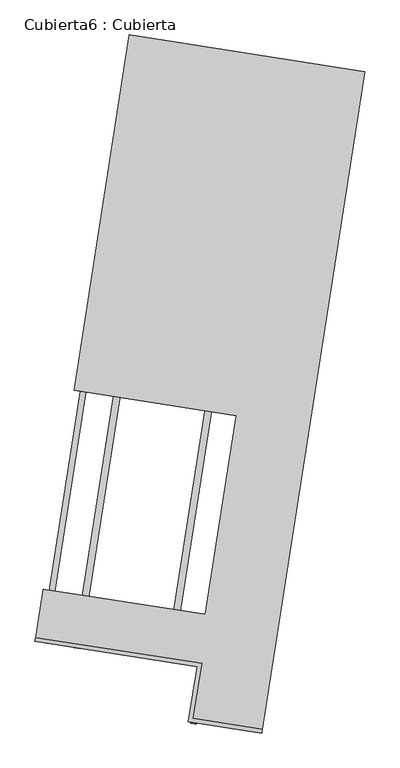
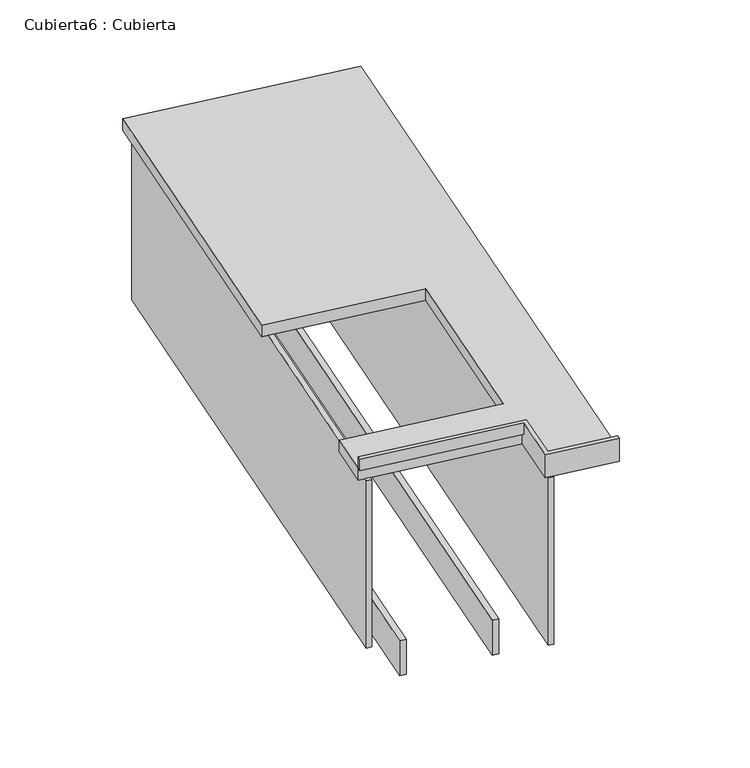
"""IFC4 building model written with IfcOpenShell, lengths in millimetres: furniture geometry, Cubierta6 : Cubierta."""

from ifc_helpers import new_model, si_unit, frame, origin, place, context, project, spatial, polyline, outline, extrude, faceted_brep, source, transform, mapped, element, save


def cubierta6_cubierta_f862e356(model_context):
    return source(origin(), model_context, "Body", "SolidModel", [
        extrude(outline(polyline([(-41443.253885, -58226.1470663), (-41777.4553404, -60370.2575747), (-41802.1570731, -60366.4073277), (-41471.8058647, -58246.9985521), (-41792.9283859, -58196.9453419), (-42123.2795943, -60316.3541195), (-42147.981327, -60312.5038726), (-41813.7798716, -58168.3933622), (-41443.253885, -58226.1470663)])), frame((0.0, 0.0, 3200.0), z_axis=(0.0, 0.0, 1.0), x_axis=(1.0, 0.0, 0.0)), (0.0, 0.0, 1.0), 150.0),
        extrude(outline(polyline([(-41918.0373001, -58025.6334638), (-41300.4939866, -58121.8896378), (-41687.0587823, -60601.9435906), (-41706.8201684, -60598.863393), (-41323.3355704, -58138.5708263), (-41901.3561116, -58048.4750476), (-42251.7286044, -60296.3328359), (-42271.4899906, -60293.2526383), (-41918.0373001, -58025.6334638)])), frame((0.0, 0.0, 3350.0), z_axis=(0.0, 0.0, 1.0), x_axis=(1.0, 0.0, 0.0)), (0.0, 0.0, 1.0), 720.0),
        faceted_brep([(-41049.6264128, -58135.6903749, 4120.0), (-41938.8887859, -57997.0814843, 4120.0), (-42148.3422215, -59340.8557423, 4120.0), (-41535.7392507, -59436.3418675, 4120.0), (-41652.7867589, -60187.2745415, 4120.0), (-42265.3897297, -60091.7884163, 4120.0), (-42293.8815748, -60274.5813502, 4120.0), (-41681.2786156, -60370.0674718, 4120.0), (-41666.457576, -60372.3776199, 4120.0), (-41698.7996329, -60579.8720607, 4120.0), (-41436.9612585, -60620.684679, 4120.0), (-41049.6264128, -58135.6903749, 4070.0), (-41439.2714066, -60635.5057186, 4070.0), (-41715.9308207, -60592.3829522, 4070.0), (-41681.2786159, -60370.0674735, 4070.0), (-42293.8815748, -60274.5813502, 4070.0), (-42265.3897297, -60091.7884163, 4070.0), (-41652.7867589, -60187.2745415, 4070.0), (-41535.7392507, -59436.3418675, 4070.0), (-42148.3422215, -59340.8557423, 4070.0), (-41938.8887859, -57997.0814843, 4070.0), (-41436.9612585, -60620.684679, 4170.0), (-41439.2714067, -60635.5057186, 4170.0), (-41698.7996329, -60579.8720607, 4170.0), (-41666.457576, -60372.3776199, 4170.0), (-42293.8815749, -60274.581352, 4170.0), (-42296.191723, -60289.4023916, 4170.0), (-41683.5887638, -60384.8885114, 4170.0), (-41715.9308207, -60592.3829522, 4170.0), (-41683.5887638, -60384.8885114, 4120.0), (-42296.191723, -60289.4023916, 4120.0), (-41681.2786159, -60370.0674735, 4120.0)], [[[0, 1, 2, 3, 4, 5, 6, 7, 8, 9, 10]], [[11, 12, 13, 14, 15, 16, 17, 18, 19, 20]], [[12, 11, 0, 10, 21, 22]], [[22, 21, 23, 24, 25, 26, 27, 28]], [[21, 10, 9, 23]], [[29, 30, 6, 31]], [[12, 22, 28, 13]], [[26, 25, 6, 30]], [[2, 1, 20, 19]], [[1, 0, 11, 20]], [[6, 5, 16, 15]], [[5, 4, 17, 16]], [[4, 3, 18, 17]], [[3, 2, 19, 18]], [[13, 28, 27, 29, 31, 14]], [[24, 23, 9, 8]], [[27, 26, 30, 29]], [[25, 24, 8, 7, 6]], [[15, 14, 31, 6]]]),
    ])


if __name__ == "__main__":
    model = new_model("IFC4")
    model_context = context("Model", 3, world=origin())
    ifc_project = project(units=[si_unit("LENGTHUNIT", "METRE", prefix="MILLI")], contexts=[model_context])
    site = spatial("IfcSite", under=ifc_project)
    building = spatial("IfcBuilding", under=site)
    placement = place(None, origin())
    cubierta6_cubierta_shape = cubierta6_cubierta_f862e356(model_context)
    element("IfcFurniture", 1, ObjectType="Cubierta6 : Cubierta", at=placement, inside=building, context=model_context, shape_type="MappedRepresentation", body=[
        mapped(cubierta6_cubierta_shape, transform((0.0, 0.0, 0.0), x_axis=(1.0, 0.0, 0.0), y_axis=(0.0, 1.0, 0.0), z_axis=(0.0, 0.0, 1.0))),
    ])
    save(model, "model.ifc")
